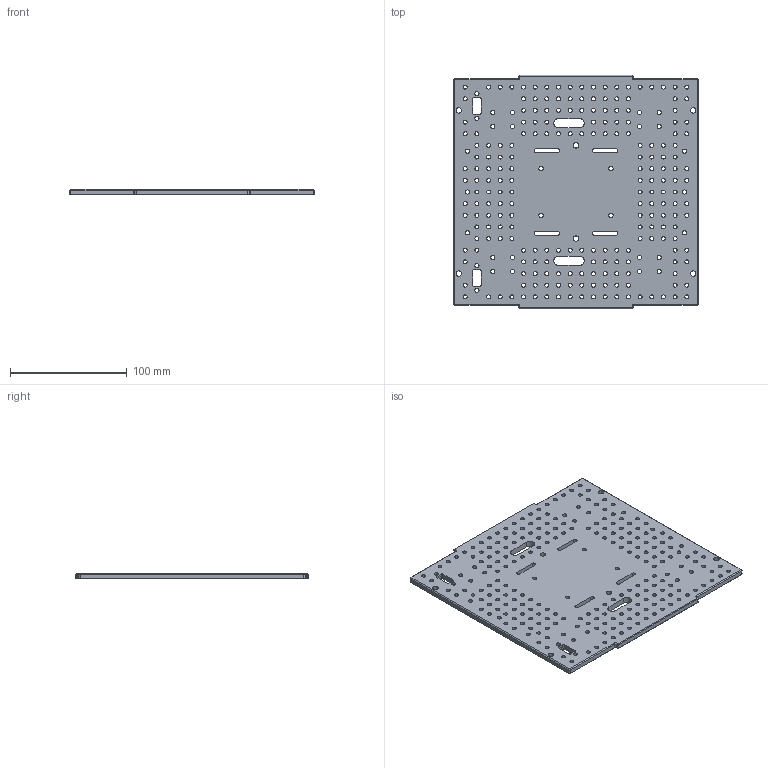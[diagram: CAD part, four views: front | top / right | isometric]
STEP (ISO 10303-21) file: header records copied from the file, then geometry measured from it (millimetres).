
FILE_DESCRIPTION(/* description */ ('STEP AP242 Edition 2','CAx-IF Rec.Pracs.---Representation and Presentation of Product Manufacturing Information (PMI)---4.0---2014-10-13','CAx-IF Rec.Pracs.---3D Tessellated Geometry---0.4---2014-09-14','2;1','CAx-IF Rec.Pracs.---User Defined Attributes---1.5---2016-08-15'),/* implementation_level */ '2;1');
FILE_NAME(/* name */ 'Chassis No Suspension - base_deck',/* time_stamp */ '2026-10-25T14:46:19Z',/* author */ (''),/* organization */ (''),/* preprocessor_version */ 'ST-DEVELOPER v20',/* originating_system */ 'ONSHAPE BY PTC INC, 1.222',/* authorisation */ ' ');
FILE_SCHEMA (('AP242_MANAGED_MODEL_BASED_3D_ENGINEERING_MIM_LF { 1 0 10303 442 3 1 4 }'));
Length unit declared in the file: metre
Products named in the file (1): base_deck
Bounding box: 210 x 200 x 5 mm (x, y, z)
Volume: 189778.6 mm3; surface area: 95221.3 mm2
Topology: 1 solids, 1 shells, 392 faces, 1110 edges, 724 vertices
Faces by surface type: cylinder 282, plane 86, cone 24
Full cylindrical faces by diameter (mm): 3.4 x214, 3.6 x30, 4.7 x6
Entity records: 14012 total; most frequent: DIRECTION 2484, CARTESIAN_POINT 2227, ORIENTED_EDGE 2220, EDGE_CURVE 1110, AXIS2_PLACEMENT_3D 981, EDGE_LOOP 912, FACE_BOUND 912, VERTEX_POINT 724
